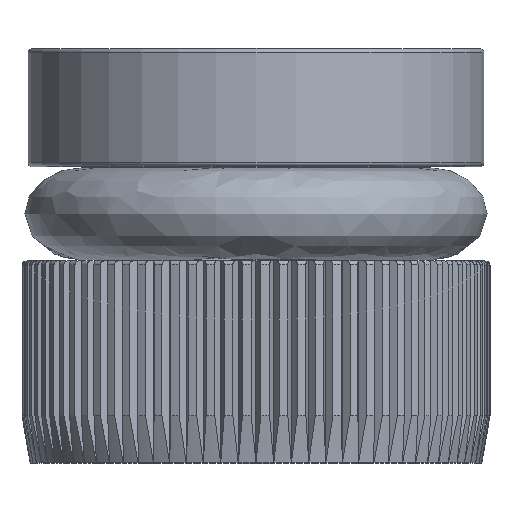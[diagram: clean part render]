
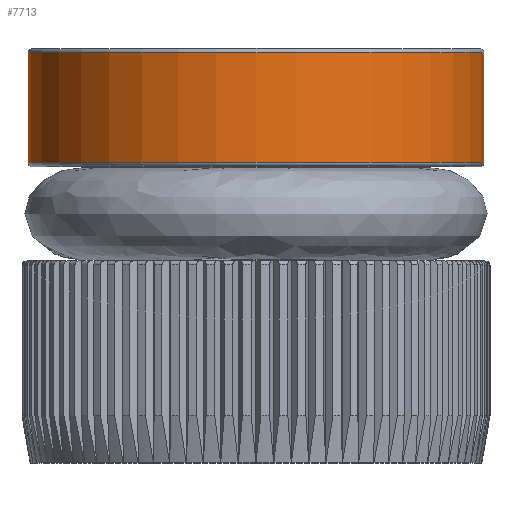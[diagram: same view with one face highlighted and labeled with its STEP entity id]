
A CAD part, top view. The second image highlights one B-rep face of the part: STEP entity #7713.
In plain terms, the highlighted cylindrical face has radius 8.598 mm (diameter 17.196 mm), a full revolution.
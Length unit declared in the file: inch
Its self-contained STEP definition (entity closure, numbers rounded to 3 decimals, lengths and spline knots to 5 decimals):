
#13=CYLINDRICAL_SURFACE('',#8163,0.3385);
#596=CIRCLE('',#8152,0.3385);
#600=CIRCLE('',#8156,0.3385);
#603=CIRCLE('',#8160,0.3385);
#604=CIRCLE('',#8161,0.3385);
#952=FACE_OUTER_BOUND('',#1374,.T.);
#1374=EDGE_LOOP('',(#5101,#5102,#5103,#5104,#5105,#5106));
#1810=LINE('',#11214,#2392);
#2392=VECTOR('',#8986,0.3385);
#2974=VERTEX_POINT('',#11194);
#2975=VERTEX_POINT('',#11195);
#2980=VERTEX_POINT('',#11207);
#2981=VERTEX_POINT('',#11209);
#3817=EDGE_CURVE('',#2974,#2975,#596,.T.);
#3821=EDGE_CURVE('',#2975,#2974,#600,.T.);
#3824=EDGE_CURVE('',#2980,#2981,#603,.T.);
#3825=EDGE_CURVE('',#2981,#2980,#604,.T.);
#3827=EDGE_CURVE('',#2980,#2975,#1810,.T.);
#5101=ORIENTED_EDGE('',*,*,#3825,.F.);
#5102=ORIENTED_EDGE('',*,*,#3824,.F.);
#5103=ORIENTED_EDGE('',*,*,#3827,.T.);
#5104=ORIENTED_EDGE('',*,*,#3817,.F.);
#5105=ORIENTED_EDGE('',*,*,#3821,.F.);
#5106=ORIENTED_EDGE('',*,*,#3827,.F.);
#7713=ADVANCED_FACE('',(#952),#13,.T.);
#8152=AXIS2_PLACEMENT_3D('',#11196,#8962,#8963);
#8156=AXIS2_PLACEMENT_3D('',#11202,#8970,#8971);
#8160=AXIS2_PLACEMENT_3D('',#11210,#8978,#8979);
#8161=AXIS2_PLACEMENT_3D('',#11211,#8980,#8981);
#8163=AXIS2_PLACEMENT_3D('',#11213,#8984,#8985);
#8962=DIRECTION('center_axis',(0.,1.,0.));
#8963=DIRECTION('ref_axis',(0.,0.,
1.));
#8970=DIRECTION('center_axis',(0.,1.,0.));
#8971=DIRECTION('ref_axis',(0.,0.,
1.));
#8978=DIRECTION('center_axis',(0.,-1.,0.));
#8979=DIRECTION('ref_axis',(0.,0.,
1.));
#8980=DIRECTION('center_axis',(0.,-1.,0.));
#8981=DIRECTION('ref_axis',(0.,0.,
1.));
#8984=DIRECTION('center_axis',(0.,-1.,0.));
#8985=DIRECTION('ref_axis',(0.,0.,-1.));
#8986=DIRECTION('',(0.,1.,0.));
#11194=CARTESIAN_POINT('',(0.,0.609,-0.3385));
#11195=CARTESIAN_POINT('',(0.,0.609,0.3385));
#11196=CARTESIAN_POINT('Origin',(0.,0.609,0.));
#11202=CARTESIAN_POINT('Origin',(0.,0.609,0.));
#11207=CARTESIAN_POINT('',(0.,0.446,0.3385));
#11209=CARTESIAN_POINT('',(0.,0.446,-0.3385));
#11210=CARTESIAN_POINT('Origin',(0.,0.446,0.));
#11211=CARTESIAN_POINT('Origin',(0.,0.446,0.));
#11213=CARTESIAN_POINT('Origin',(0.,0.5275,0.));
#11214=CARTESIAN_POINT('',(0.,0.5275,0.3385));
